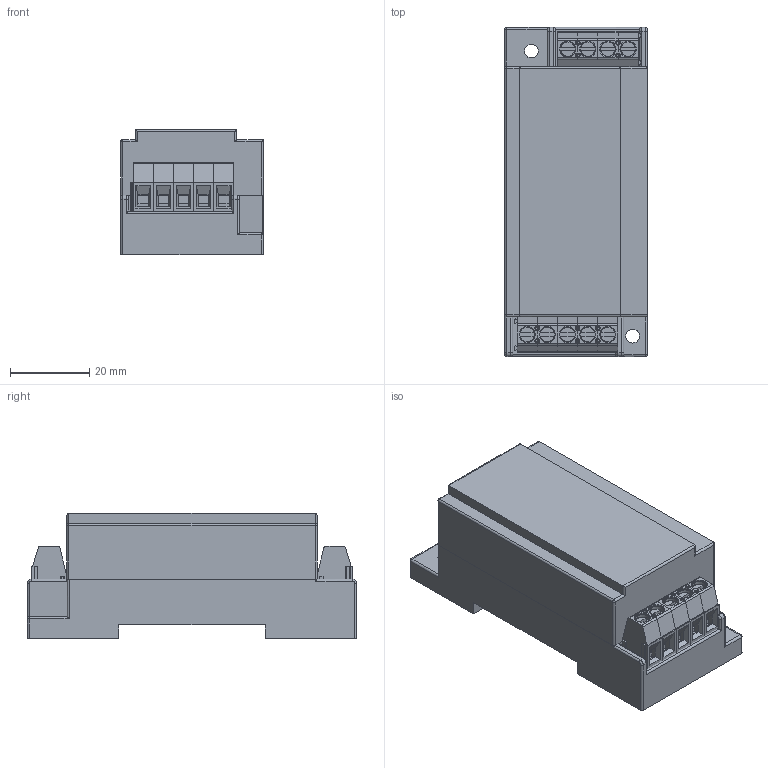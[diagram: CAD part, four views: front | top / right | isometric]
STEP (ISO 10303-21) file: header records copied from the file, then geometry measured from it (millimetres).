
FILE_DESCRIPTION(/* description */ ('Alibre Inc.'),/* implementation_level */ '2;1');
FILE_NAME(/* name */ 'export0',/* time_stamp */ '2013-08-12T09:00:17-06:00',/* author */ (''),/* organization */ (''),/* preprocessor_version */ 'ST-DEVELOPER v14',/* originating_system */ 'Alibre',/* authorisation */ '');
FILE_SCHEMA (('ALIBRE_SCHEMA','CONFIG_CONTROL_DESIGN'));
Length unit declared in the file: centimetre
Products named in the file (8): ID_1; 1; 2; 3
Bounding box: 36.04 x 83 x 31.6 mm (x, y, z)
Volume: 76845.1 mm3; surface area: 19290 mm2
Topology: 10 solids, 10 shells, 1484 faces, 4071 edges, 2648 vertices
Faces by surface type: plane 861, cylinder 393, bspline 108, torus 80, cone 38, sphere 4
Full cylindrical faces by diameter (mm): 3.5 x2
Entity records: 65942 total; most frequent: CARTESIAN_POINT 18833, ORIENTED_EDGE 8938, DIRECTION 7160, EDGE_CURVE 4469, VECTOR 3258, LINE 3195, VERTEX_POINT 2912, AXIS2_PLACEMENT_3D 2465
